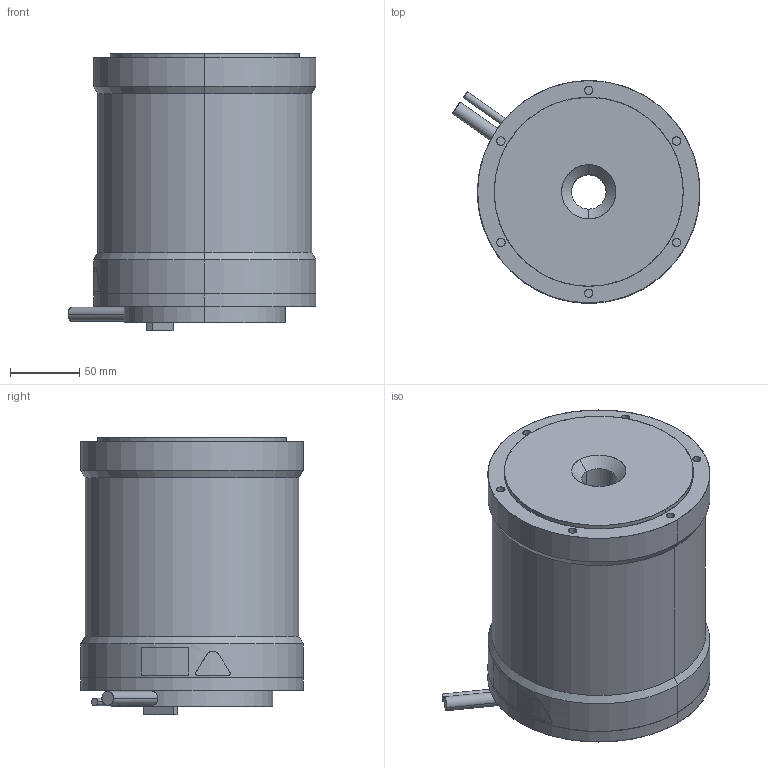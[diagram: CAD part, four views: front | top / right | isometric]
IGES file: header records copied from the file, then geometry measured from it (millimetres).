
Start section: SolidWorks IGES file using analytic representation for surfaces
Bounding box: 178.36 x 160 x 200 mm (x, y, z)
Surface area: 157178 mm2 (no closed solid volume)
Topology: 0 solids, 0 shells, 190 faces, 4124 edges, 4124 vertices
Faces by surface type: revolution 114, bspline 76
